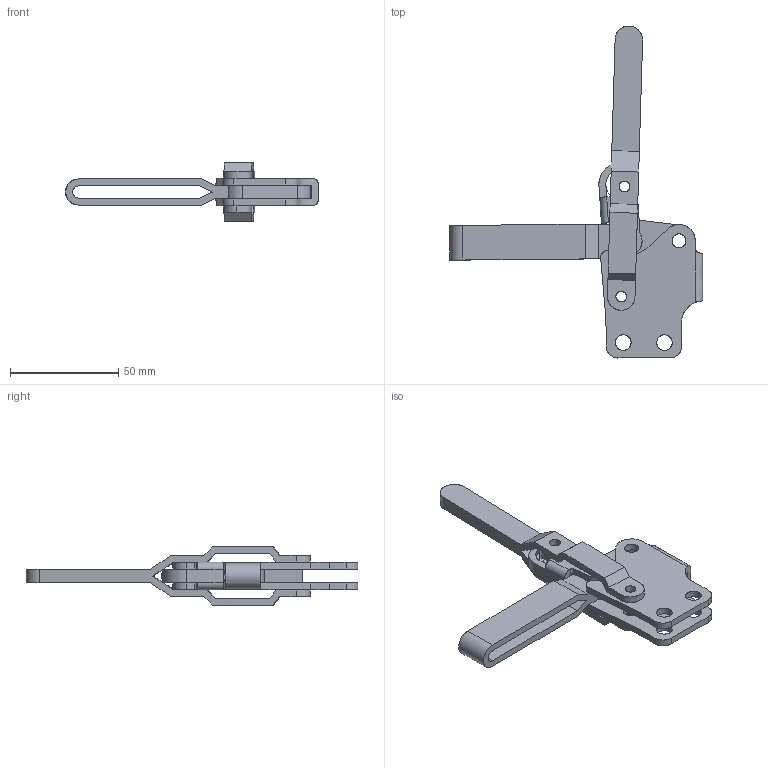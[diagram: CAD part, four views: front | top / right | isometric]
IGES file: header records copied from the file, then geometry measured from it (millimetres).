
Start section: SolidWorks IGES file using analytic representation for surfaces
Global section: file name: D:\GH Files\GH-SW-FILES\GH1\GH-12135,12137,12136\12135\GH-12135.igs; native system: SolidWorks 2006 by SolidWorks Corporation; preprocessor: SolidWorks 2006 by SolidWorks Corporation; author: Administrator; date: 060824.170255; units: millimetre
Bounding box: 116.72 x 153.11 x 26.8 mm (x, y, z)
Surface area: 28069.7 mm2 (no closed solid volume)
Topology: 0 solids, 0 shells, 169 faces, 2837 edges, 2837 vertices
Faces by surface type: revolution 88, bspline 81
